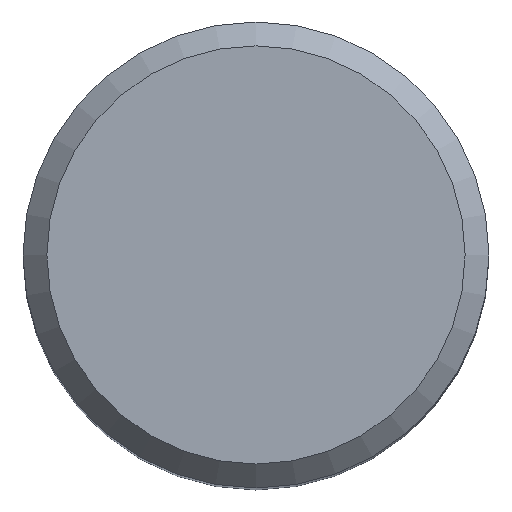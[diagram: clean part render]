
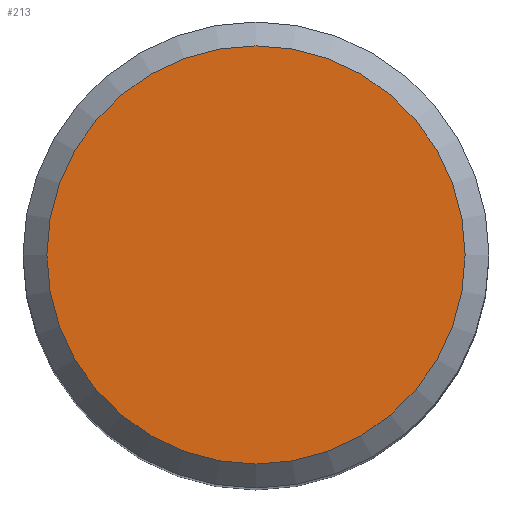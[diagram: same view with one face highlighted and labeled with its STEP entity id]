
A CAD part, top view. The second image highlights one B-rep face of the part: STEP entity #213.
In plain terms, the highlighted planar face has unit normal (0, 0, 1).
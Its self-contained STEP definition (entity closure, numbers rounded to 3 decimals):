
#43 = CONICAL_SURFACE('',#44,1.95,0.785);
#44 = AXIS2_PLACEMENT_3D('',#45,#46,#47);
#45 = CARTESIAN_POINT('',(0.,0.,9.8));
#46 = DIRECTION('',(-0.,-0.,-1.));
#47 = DIRECTION('',(1.,0.,-0.));
#107 = EDGE_CURVE('',#108,#108,#110,.T.);
#108 = VERTEX_POINT('',#109);
#109 = CARTESIAN_POINT('',(1.75,0.,10.));
#110 = SURFACE_CURVE('',#111,(#116,#123),.PCURVE_S1.);
#111 = CIRCLE('',#112,1.75);
#112 = AXIS2_PLACEMENT_3D('',#113,#114,#115);
#113 = CARTESIAN_POINT('',(0.,0.,10.));
#114 = DIRECTION('',(0.,0.,1.));
#115 = DIRECTION('',(1.,0.,-0.));
#116 = PCURVE('',#43,#117);
#117 = DEFINITIONAL_REPRESENTATION('',(#118),#122);
#118 = LINE('',#119,#120);
#119 = CARTESIAN_POINT('',(-0.,-0.2));
#120 = VECTOR('',#121,1.);
#121 = DIRECTION('',(-1.,-0.));
#122 = ( GEOMETRIC_REPRESENTATION_CONTEXT(2) 
PARAMETRIC_REPRESENTATION_CONTEXT() REPRESENTATION_CONTEXT('2D SPACE',''
  ) );
#123 = PCURVE('',#124,#129);
#124 = PLANE('',#125);
#125 = AXIS2_PLACEMENT_3D('',#126,#127,#128);
#126 = CARTESIAN_POINT('',(0.,0.,10.));
#127 = DIRECTION('',(0.,0.,1.));
#128 = DIRECTION('',(1.,0.,-0.));
#129 = DEFINITIONAL_REPRESENTATION('',(#130),#134);
#130 = CIRCLE('',#131,1.75);
#131 = AXIS2_PLACEMENT_2D('',#132,#133);
#132 = CARTESIAN_POINT('',(0.,0.));
#133 = DIRECTION('',(1.,0.));
#134 = ( GEOMETRIC_REPRESENTATION_CONTEXT(2) 
PARAMETRIC_REPRESENTATION_CONTEXT() REPRESENTATION_CONTEXT('2D SPACE',''
  ) );
#213 = ADVANCED_FACE('',(#214),#124,.T.);
#214 = FACE_BOUND('',#215,.T.);
#215 = EDGE_LOOP('',(#216));
#216 = ORIENTED_EDGE('',*,*,#107,.T.);
